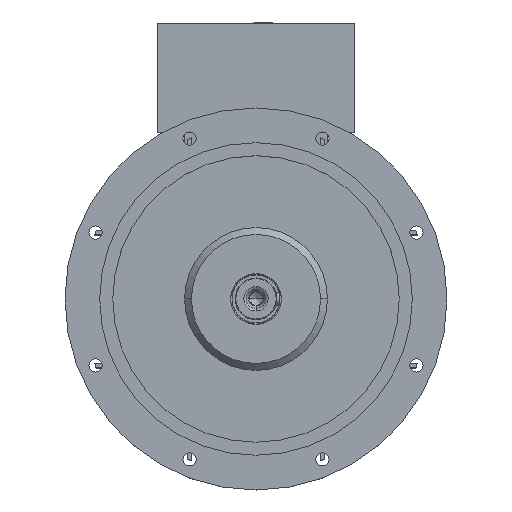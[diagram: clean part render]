
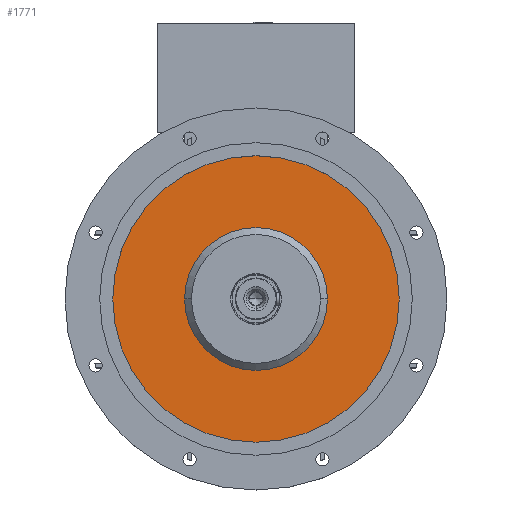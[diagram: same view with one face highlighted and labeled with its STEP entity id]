
A CAD part, top view. The second image highlights one B-rep face of the part: STEP entity #1771.
In plain terms, the highlighted planar face has unit normal (0, 0, 1).
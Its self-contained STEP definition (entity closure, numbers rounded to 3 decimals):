
#810 = CARTESIAN_POINT ( 'NONE',  ( 102.8, 0., 330.5 ) ) ;
#1041 = DIRECTION ( 'NONE',  ( -1., 0., 0. ) ) ;
#1771 = ADVANCED_FACE ( 'NONE', ( #17763, #5980 ), #23191, .T. ) ;
#1774 = CARTESIAN_POINT ( 'NONE',  ( 206.25, 0., 330.5 ) ) ;
#2573 = AXIS2_PLACEMENT_3D ( 'NONE', #8730, #10445, #1041 ) ;
#2618 = DIRECTION ( 'NONE',  ( 0., 0., 1. ) ) ;
#2735 = DIRECTION ( 'NONE',  ( 0., 0., -1. ) ) ;
#2916 = VERTEX_POINT ( 'NONE', #12233 ) ;
#3475 = DIRECTION ( 'NONE',  ( -1., 0., 0. ) ) ;
#4162 = EDGE_CURVE ( 'NONE', #8866, #11734, #21728, .T. ) ;
#4426 = CIRCLE ( 'NONE', #12861, 206.25 ) ;
#4934 = ORIENTED_EDGE ( 'NONE', *, *, #17585, .T. ) ;
#5867 = DIRECTION ( 'NONE',  ( 1., 0., 0. ) ) ;
#5980 = FACE_BOUND ( 'NONE', #16497, .T. ) ;
#6276 = ORIENTED_EDGE ( 'NONE', *, *, #14609, .T. ) ;
#7131 = VERTEX_POINT ( 'NONE', #1774 ) ;
#7295 = AXIS2_PLACEMENT_3D ( 'NONE', #24764, #15383, #3475 ) ;
#8730 = CARTESIAN_POINT ( 'NONE',  ( 0., 0., 330.5 ) ) ;
#8793 = AXIS2_PLACEMENT_3D ( 'NONE', #18188, #2735, #12419 ) ;
#8866 = VERTEX_POINT ( 'NONE', #20869 ) ;
#9113 = AXIS2_PLACEMENT_3D ( 'NONE', #21420, #15407, #5867 ) ;
#10445 = DIRECTION ( 'NONE',  ( 0., 0., 1. ) ) ;
#11734 = VERTEX_POINT ( 'NONE', #810 ) ;
#11896 = ORIENTED_EDGE ( 'NONE', *, *, #4162, .T. ) ;
#12233 = CARTESIAN_POINT ( 'NONE',  ( -206.25, 0., 330.5 ) ) ;
#12419 = DIRECTION ( 'NONE',  ( -1., 0., 0. ) ) ;
#12861 = AXIS2_PLACEMENT_3D ( 'NONE', #14241, #2618, #20259 ) ;
#13869 = EDGE_LOOP ( 'NONE', ( #19563, #4934 ) ) ;
#14241 = CARTESIAN_POINT ( 'NONE',  ( 0., 0., 330.5 ) ) ;
#14609 = EDGE_CURVE ( 'NONE', #11734, #8866, #18110, .T. ) ;
#15383 = DIRECTION ( 'NONE',  ( 0., 0., -1. ) ) ;
#15407 = DIRECTION ( 'NONE',  ( 0., 0., 1. ) ) ;
#16497 = EDGE_LOOP ( 'NONE', ( #11896, #6276 ) ) ;
#17585 = EDGE_CURVE ( 'NONE', #7131, #2916, #4426, .T. ) ;
#17763 = FACE_OUTER_BOUND ( 'NONE', #13869, .T. ) ;
#18110 = CIRCLE ( 'NONE', #7295, 102.8 ) ;
#18188 = CARTESIAN_POINT ( 'NONE',  ( 0., 0., 330.5 ) ) ;
#19563 = ORIENTED_EDGE ( 'NONE', *, *, #23637, .T. ) ;
#20259 = DIRECTION ( 'NONE',  ( -1., 0., 0. ) ) ;
#20869 = CARTESIAN_POINT ( 'NONE',  ( -102.8, 0., 330.5 ) ) ;
#21420 = CARTESIAN_POINT ( 'NONE',  ( 0., 206.25, 330.5 ) ) ;
#21728 = CIRCLE ( 'NONE', #8793, 102.8 ) ;
#23191 = PLANE ( 'NONE',  #9113 ) ;
#23637 = EDGE_CURVE ( 'NONE', #2916, #7131, #24357, .T. ) ;
#24357 = CIRCLE ( 'NONE', #2573, 206.25 ) ;
#24764 = CARTESIAN_POINT ( 'NONE',  ( 0., 0., 330.5 ) ) ;
